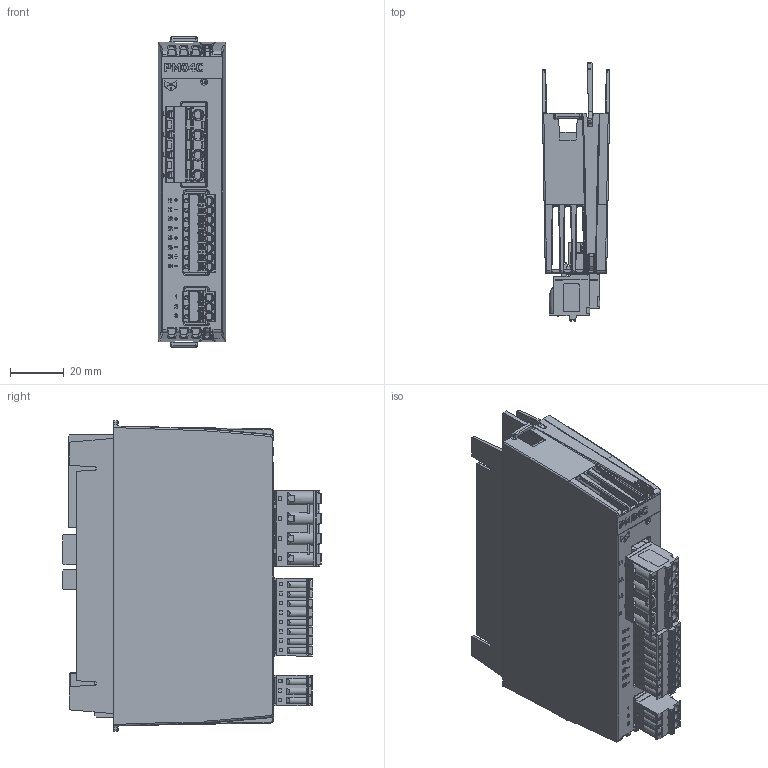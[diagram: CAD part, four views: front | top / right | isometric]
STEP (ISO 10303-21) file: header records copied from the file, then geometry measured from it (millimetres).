
FILE_DESCRIPTION(/* description */ (''),/* implementation_level */ '2;1');
FILE_NAME(/* name */ 'C:\Users\Public\Documents\Autodesk\Inventor 2023\PM04C_Simplified.stp',/* time_stamp */ '2024-10-18T22:36:31+02:00',/* author */ ('shoma'),/* organization */ (''),/* preprocessor_version */ 'ST-DEVELOPER v19',/* originating_system */ 'Autodesk Inventor 2023',/* authorisation */ '');
FILE_SCHEMA (('AUTOMOTIVE_DESIGN { 1 0 10303 214 3 1 1 }'));
Products named in the file (1): PM04C_Simplified
Bounding box: 24.95 x 96.19 x 115.5 mm (x, y, z)
Volume: 113438.5 mm3; surface area: 62563.4 mm2
Topology: 1 solids, 34 shells, 5351 faces, 14389 edges, 9206 vertices
Faces by surface type: plane 3927, cylinder 1009, bspline 243, cone 123, torus 26, sphere 23
Full cylindrical faces by diameter (mm): 0.296 x2, 0.434 x1, 0.457 x2, 1.17 x11, 1.25 x11, 1.3 x11, 1.4 x4, 1.5 x4, 1.6 x7, 2.5 x1, 2.8 x3, 3 x4, 3.1 x11, 4 x4
Entity records: 177373 total; most frequent: CARTESIAN_POINT 37221, ORIENTED_EDGE 28684, DIRECTION 27039, EDGE_CURVE 14342, LINE 11141, VECTOR 11141, VERTEX_POINT 9202, AXIS2_PLACEMENT_3D 7949
